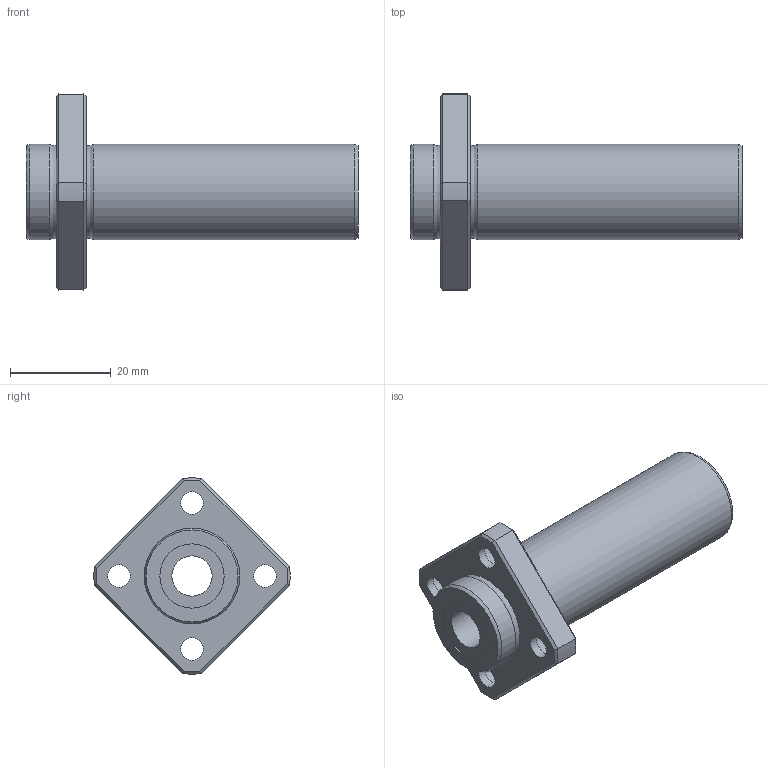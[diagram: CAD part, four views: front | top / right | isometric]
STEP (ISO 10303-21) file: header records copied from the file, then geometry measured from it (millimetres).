
FILE_DESCRIPTION((''),'2;1');
FILE_NAME('D:\製品 (図面)\カタログ用3D\リニアベアリング関連\STEP形式\LFLKB\LFLKB8.stp','2010-06-04T09:10:20',('Tsuchiya'),(''),'Autodesk Inventor 10','Autodesk Inventor 10','');
FILE_SCHEMA(('AUTOMOTIVE_DESIGN { 1 0 10303 214 1 1 1 1 }'));
Length unit declared in the file: millimetre
Products named in the file (1): LFLKB8
Bounding box: 66 x 38.98 x 38.98 mm (x, y, z)
Volume: 17954.4 mm3; surface area: 7934 mm2
Topology: 1 solids, 1 shells, 51 faces, 103 edges, 62 vertices
Faces by surface type: plane 18, bspline 14, cylinder 9, cone 8, torus 2
Full cylindrical faces by diameter (mm): 8 x1, 12.8 x2, 19 x2
Entity records: 1517 total; most frequent: CARTESIAN_POINT 520, DIRECTION 192, ORIENTED_EDGE 172, EDGE_CURVE 86, EDGE_LOOP 86, AXIS2_PLACEMENT_3D 84, VERTEX_POINT 62, FACE_OUTER_BOUND 51
